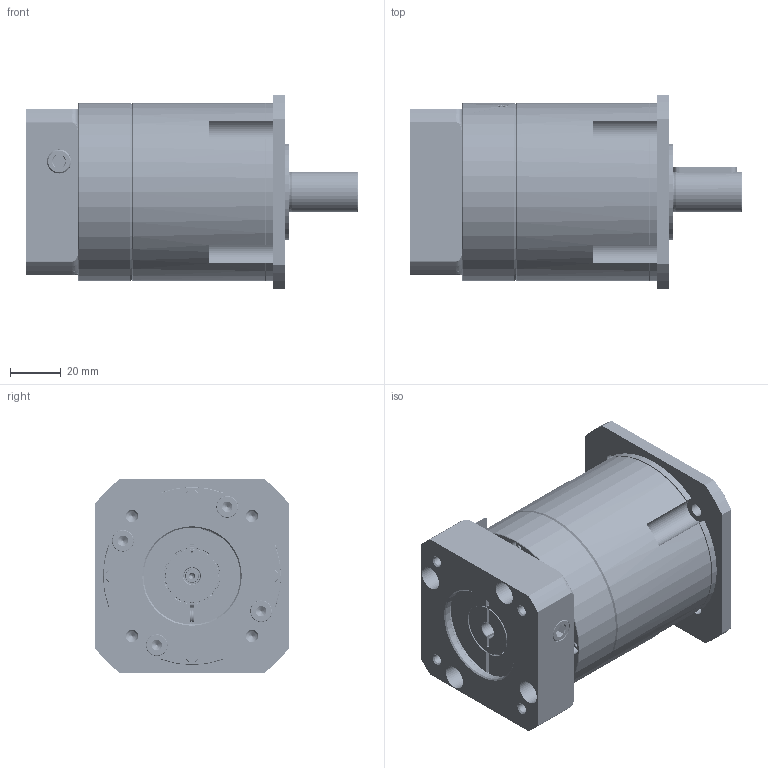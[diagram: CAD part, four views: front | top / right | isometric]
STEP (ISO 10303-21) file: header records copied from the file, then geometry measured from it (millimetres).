
FILE_DESCRIPTION (( 'STEP AP214' ), '1' );
FILE_NAME ('LH-023-005-P01-S01-S-SL-064-A03-0000-0RR-FFF-MMM-S-LL-XXX-AXX-0000-LH-023-010-P01-S01-S-SL-064-A03-0000.step', '2025-02-26T18:28:30', ( '' ), ( '' ), 'SwSTEP 2.0', 'SolidWorks 2019', '' );
FILE_SCHEMA (( 'AUTOMOTIVE_DESIGN' ));
Length unit declared in the file: millimetre
Products named in the file (38): 9001417-00XX_9001417-0010; Wave spring washer for bearings 42 x 51 x 0.5_Working Thickness 0.8; 5003038-X00X_5003038-1001; 5000703-000X_Solid; 4000390_4000390; collar, 19 mm input, stop shoulder; 5001292; 5001642-00XX_6.35mm [0.25"] ID; EH-47_EH-47 internal retaining ring; 9000238-000X_9000238-0001; Label Model Family_Onvio Header; 400-00023; 6205 2XCS_DEFAULT; 9003569-000X_9003569-0010; O-Ring 52 x 2_Male Gland 55x52x2.7; interface extension, single stage, LH-010_Black Anodize; 5000695; 9002652-XXXX_9002652-9010; LH-023-005-P01-S01-S-SL-064-A03-0000-0RR-FFF-MMM-S-LL-XXX-AXX-0000-LH-023-010-P01-S01-S-SL-064-A03-0000; ISO 4762 M5 x 16 --- 16 -- 12.9 -- black; 5000789_ISO 4762 M5 x 12 --- 12 -- 12.9 -- black; input shaft, single stage, AH-010, LH-010_i=10; 9001419-X0XX_9001419-0010; 130-02906; Circlip DIN 471 - 25 x 1.2; Circlip DIN 472 - 52 x 2; 5003044-0XXX_i=10, keyway; 4001306_91290A123; O-Ring 47 x 2_Male Gland 47x50x2.8; 5001279; 5003446-X0XX_5003446-9003; 530-02409_Working Thickness 1.0; 4001379; 5000708; 5x5x25 Form A; 500-03109
Assembly tree (94 placements, depth 5):
  LH-023-005-P01-S01-S-SL-064-A03-0000-0RR-FFF-MMM-S-LL-XXX-AXX-0000-LH-023-010-P01-S01-S-SL-064-A03-0000
    9002652-XXXX_9002652-9010
      5003038-X00X_5003038-1001
      9003569-000X_9003569-0010
        interface extension, single stage, LH-010_Black Anodize
        O-Ring 47 x 2_Male Gland 47x50x2.8
        collar, 19 mm input, stop shoulder
        ISO 4762 M5 x 16 --- 16 -- 12.9 -- black
        530-02409_Working Thickness 1.0
        EH-47_EH-47 internal retaining ring
        9001417-00XX_9001417-0010
          input shaft, single stage, AH-010, LH-010_i=10
          5000708
          400-00023
          Circlip DIN 471 - 25 x 1.2
      9001419-X0XX_9001419-0010
        5003044-0XXX_i=10, keyway
        9000238-000X_9000238-0001
          5000703-000X_Solid
          5000695
          5001279  x11
          5001292  x2
        9000238-000X_9000238-0001
          5000703-000X_Solid
          5000695
          5001279  x11
          5001292  x2
        9000238-000X_9000238-0001
          5000703-000X_Solid
          5000695
          5001279  x11
          5001292  x2
      5x5x25 Form A
      6205 2XCS_DEFAULT  x2
      Circlip DIN 472 - 52 x 2
      Circlip DIN 471 - 25 x 1.2
      Wave spring washer for bearings 42 x 51 x 0.5_Working Thickness 0.8
      O-Ring 52 x 2_Male Gland 55x52x2.7
      4001306_91290A123  x8
      4000390_4000390
    5003446-X0XX_5003446-9003
    5001642-00XX_6.35mm [0.25"] ID
    5000789_ISO 4762 M5 x 12 --- 12 -- 12.9 -- black  x4
    4001379  x2
    Label Model Family_Onvio Header
    130-02906
    500-03109  x4
Bounding box: 130.5 x 76 x 76 mm (x, y, z)
Volume: 332941.6 mm3; surface area: 177079.3 mm2
Topology: 88 solids, 92 shells, 5925 faces, 15961 edges, 10312 vertices
Faces by surface type: cylinder 1749, plane 1351, bspline 1280, cone 801, torus 716, sphere 28
Entity records: 171935 total; most frequent: CARTESIAN_POINT 74290, ORIENTED_EDGE 18892, DIRECTION 14175, EDGE_CURVE 9446, VERTEX_POINT 6144, AXIS2_PLACEMENT_3D 5220, EDGE_LOOP 3812, LINE 3735
